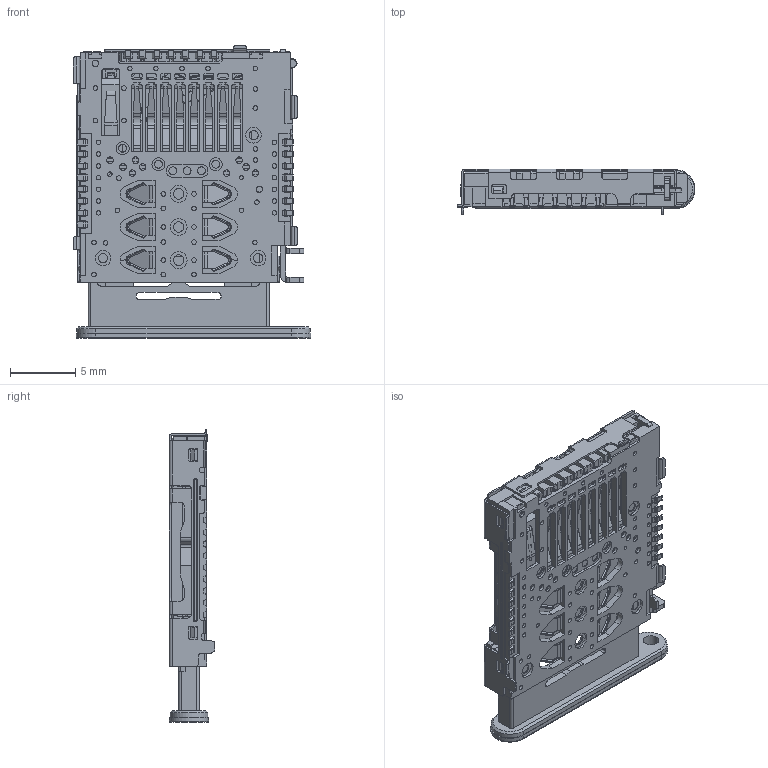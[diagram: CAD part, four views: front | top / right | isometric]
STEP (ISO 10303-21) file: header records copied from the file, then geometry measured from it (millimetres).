
FILE_DESCRIPTION((''),'2;1');
FILE_NAME('ASM0003_ASM','2024-02-19T16:33:57',('Administrator'),(''),'CREO PARAMETRIC BY PTC INC, 2021063','CREO PARAMETRIC BY PTC INC, 2021063','');
FILE_SCHEMA(('CONFIG_CONTROL_DESIGN','SHAPE_APPEARANCE_LAYERS_GROUPS'));
Products named in the file (3): M6110-01; M6110-KT; ASM0003_ASM
Assembly tree (2 placements, depth 2):
  ASM0003_ASM
    M6110-01
    M6110-KT
Bounding box: 18.25 x 3.5 x 22.45 mm (x, y, z)
Volume: 513.1 mm3; surface area: 3053 mm2
Topology: 3 solids, 3 shells, 3833 faces, 10772 edges, 7041 vertices
Faces by surface type: plane 2219, cylinder 1408, torus 104, cone 68, bspline 34
Entity records: 145759 total; most frequent: CARTESIAN_POINT 24289, ORIENTED_EDGE 21544, DIRECTION 21175, EDGE_CURVE 10772, VECTOR 7451, LINE 7451, VERTEX_POINT 7041, AXIS2_PLACEMENT_3D 6862
